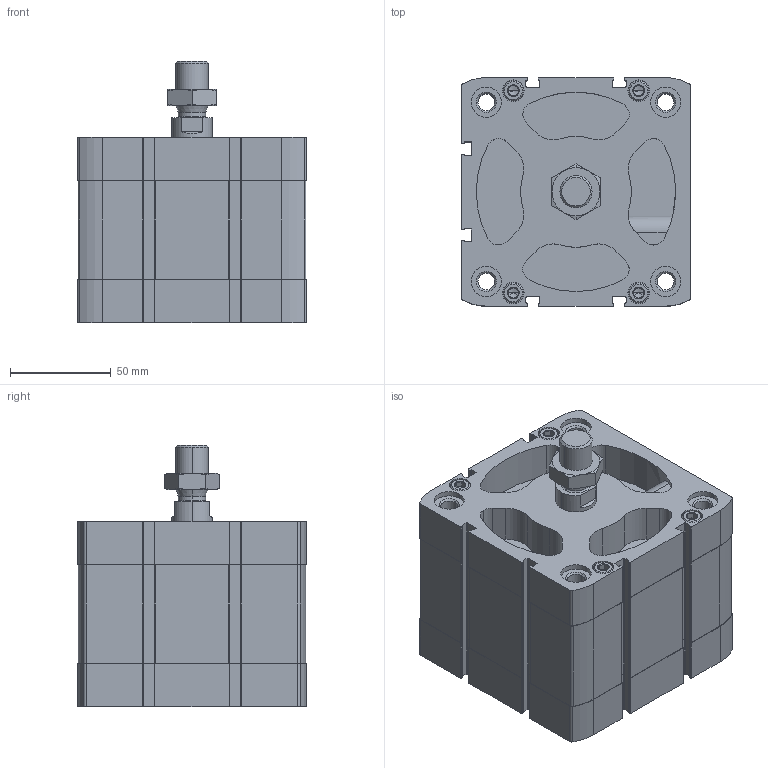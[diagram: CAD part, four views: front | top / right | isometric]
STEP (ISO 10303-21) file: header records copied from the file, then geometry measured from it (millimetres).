
FILE_DESCRIPTION (( 'STEP AP203' ), '1' );
FILE_NAME ('CCN100-25M.STEP', '2020-06-05T18:06:34', ( '' ), ( '' ), 'SwSTEP 2.0', 'SolidWorks 2019', '' );
FILE_SCHEMA (( 'CONFIG_CONTROL_DESIGN' ));
Length unit declared in the file: millimetre
Products named in the file (1): CCN100-25M
Bounding box: 113.5 x 113.5 x 129.8 mm (x, y, z)
Volume: 810309.3 mm3; surface area: 168540.4 mm2
Topology: 3 solids, 3 shells, 648 faces, 1673 edges, 1068 vertices
Faces by surface type: plane 292, cylinder 272, cone 80, torus 4
Entity records: 21246 total; most frequent: CARTESIAN_POINT 4984, DIRECTION 3541, ORIENTED_EDGE 3314, EDGE_CURVE 1657, AXIS2_PLACEMENT_3D 1319, VERTEX_POINT 1068, VECTOR 903, LINE 903
